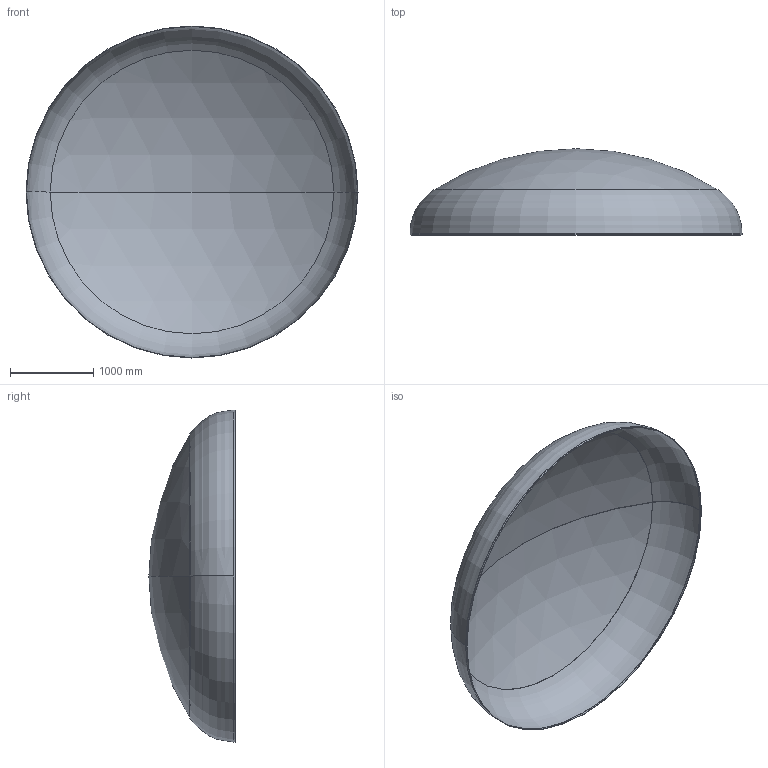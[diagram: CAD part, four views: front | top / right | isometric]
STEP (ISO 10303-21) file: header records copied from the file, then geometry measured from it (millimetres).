
FILE_DESCRIPTION (( 'STEP AP203' ), '1' );
FILE_NAME ('DIN 28013 Korbbogenform_-_Boden DIN 28013 - 4000 x 20 - I - s=5.step', '2016-07-01T21:56:50', ( '' ), ( '' ), 'SwSTEP 2.0', 'SolidWorks 2013', '' );
FILE_SCHEMA (( 'CONFIG_CONTROL_DESIGN' ));
Length unit declared in the file: millimetre
Products named in the file (1): DIN 28013 Korbbogenform_-_Boden DIN 28013 - 4000 x 20 - I - s=5
Bounding box: 4000 x 1039.18 x 4000 mm (x, y, z)
Volume: 88114749.6 mm3; surface area: 35308690.8 mm2
Topology: 1 solids, 1 shells, 13 faces, 24 edges, 14 vertices
Faces by surface type: torus 4, cylinder 4, sphere 4, plane 1
Entity records: 407 total; most frequent: DIRECTION 72, CARTESIAN_POINT 52, ORIENTED_EDGE 48, AXIS2_PLACEMENT_3D 34, EDGE_CURVE 24, CIRCLE 20, VERTEX_POINT 14, EDGE_LOOP 14
